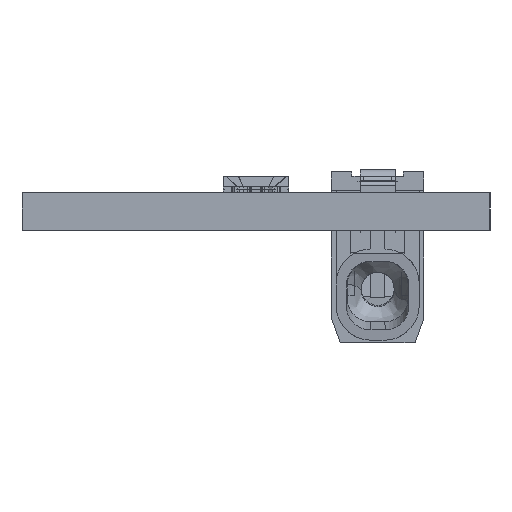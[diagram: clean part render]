
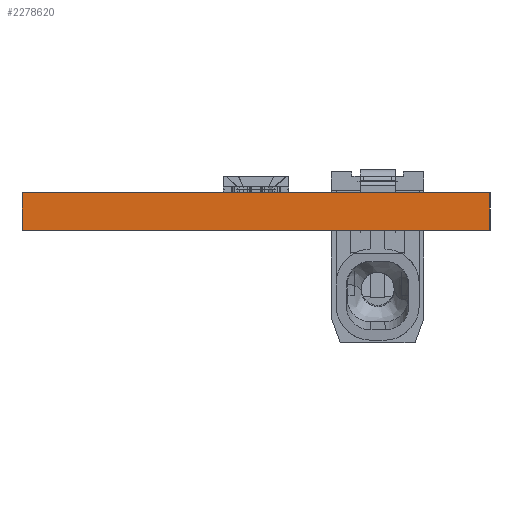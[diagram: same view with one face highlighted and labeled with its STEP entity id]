
A CAD part, left-side view. The second image highlights one B-rep face of the part: STEP entity #2278620.
In plain terms, the highlighted planar face has unit normal (-1, 0, 0).
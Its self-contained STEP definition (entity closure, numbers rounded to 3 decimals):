
#2259370=CARTESIAN_POINT('',(-0.286,21.548,0.));
#2259380=DIRECTION('',(0.,1.,0.));
#2259390=VECTOR('',#2259380,0.039);
#2259400=LINE('',#2259370,#2259390);
#2259410=CARTESIAN_POINT('',(-0.286,21.548,0.));
#2259420=VERTEX_POINT('',#2259410);
#2259430=CARTESIAN_POINT('',(-0.286,41.548,0.));
#2259440=VERTEX_POINT('',#2259430);
#2259450=EDGE_CURVE('',#2259420,#2259440,#2259400,.T.);
#2265760=CARTESIAN_POINT('',(-0.286,21.548,-1.6));
#2265770=VERTEX_POINT('',#2265760);
#2267900=CARTESIAN_POINT('',(-0.286,41.548,-1.6));
#2267910=VERTEX_POINT('',#2267900);
#2267940=CARTESIAN_POINT('',(-0.286,21.548,-1.6));
#2267950=DIRECTION('',(0.,1.,0.));
#2267960=VECTOR('',#2267950,0.039);
#2267970=LINE('',#2267940,#2267960);
#2267980=EDGE_CURVE('',#2265770,#2267910,#2267970,.T.);
#2272110=CARTESIAN_POINT('',(-0.286,21.548,0.));
#2272120=DIRECTION('',(0.,0.,-1.));
#2272130=VECTOR('',#2272120,1.);
#2272140=LINE('',#2272110,#2272130);
#2272150=EDGE_CURVE('',#2259420,#2265770,#2272140,.T.);
#2278330=CARTESIAN_POINT('',(-0.286,41.548,0.));
#2278340=DIRECTION('',(0.,0.,-1.));
#2278350=VECTOR('',#2278340,1.);
#2278360=LINE('',#2278330,#2278350);
#2278370=EDGE_CURVE('',#2259440,#2267910,#2278360,.T.);
#2278510=CARTESIAN_POINT('',(-0.286,21.548,0.));
#2278520=DIRECTION('',(1.,0.,0.));
#2278530=DIRECTION('',(0.,-1.,0.));
#2278540=AXIS2_PLACEMENT_3D('',#2278510,#2278520,#2278530);
#2278550=PLANE('',#2278540);
#2278560=ORIENTED_EDGE('',*,*,#2259450,.T.);
#2278570=ORIENTED_EDGE('',*,*,#2272150,.F.);
#2278580=ORIENTED_EDGE('',*,*,#2267980,.F.);
#2278590=ORIENTED_EDGE('',*,*,#2278370,.T.);
#2278600=EDGE_LOOP('',(#2278590,#2278580,#2278570,#2278560));
#2278610=FACE_OUTER_BOUND('',#2278600,.T.);
#2278620=ADVANCED_FACE('',(#2278610),#2278550,.F.);
